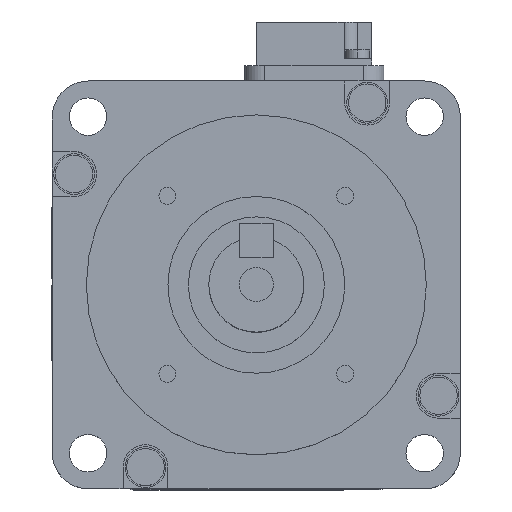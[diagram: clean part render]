
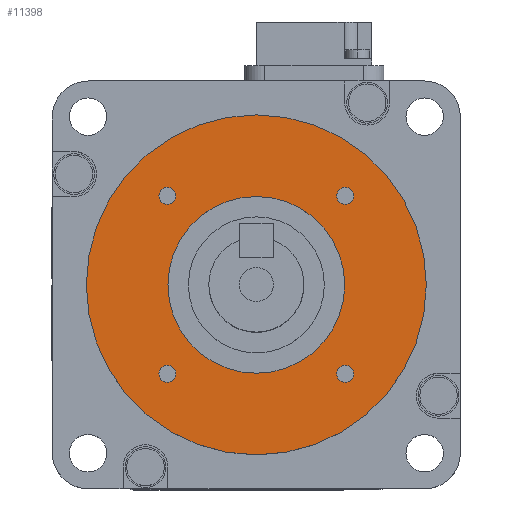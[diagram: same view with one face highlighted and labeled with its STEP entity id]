
A CAD part, top view. The second image highlights one B-rep face of the part: STEP entity #11398.
In plain terms, the highlighted planar face has unit normal (0, 0, 1).
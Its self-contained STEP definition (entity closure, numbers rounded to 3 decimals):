
#1415 = VERTEX_POINT ( 'NONE', #4808 ) ;
#1491 = VERTEX_POINT ( 'NONE', #4983 ) ;
#4808 = CARTESIAN_POINT ( 'NONE',  ( -25., 0., 3. ) ) ;
#4983 = CARTESIAN_POINT ( 'NONE',  ( 25., 0., 3. ) ) ;
#5596 = EDGE_LOOP ( 'NONE', ( #11982, #11968 ) ) ;
#7017 = CARTESIAN_POINT ( 'NONE',  ( 14.331, 13.081, 3. ) ) ;
#7051 = CARTESIAN_POINT ( 'NONE',  ( 11.831, 13.081, 3. ) ) ;
#7128 = DIRECTION ( 'NONE',  ( 0., 1., 0. ) ) ;
#7129 = DIRECTION ( 'NONE',  ( 0., 0., 1. ) ) ;
#7130 = CARTESIAN_POINT ( 'NONE',  ( -13.081, 13.081, 3. ) ) ;
#7131 = AXIS2_PLACEMENT_3D ( 'NONE', #7130, #7129, #7128 ) ;
#7132 = CIRCLE ( 'NONE', #7131, 1.25 ) ;
#7235 = FACE_BOUND ( 'NONE', #12932, .T. ) ;
#7236 = FACE_BOUND ( 'NONE', #11460, .T. ) ;
#7237 = FACE_BOUND ( 'NONE', #11914, .T. ) ;
#7238 = FACE_BOUND ( 'NONE', #11906, .T. ) ;
#7239 = FACE_BOUND ( 'NONE', #5596, .T. ) ;
#7263 = CARTESIAN_POINT ( 'NONE',  ( -11.831, 13.081, 3. ) ) ;
#7285 = DIRECTION ( 'NONE',  ( 1., 0., 0. ) ) ;
#7286 = DIRECTION ( 'NONE',  ( 0., 0., 1. ) ) ;
#7287 = CARTESIAN_POINT ( 'NONE',  ( 13.081, 13.081, 3. ) ) ;
#7288 = AXIS2_PLACEMENT_3D ( 'NONE', #7287, #7286, #7285 ) ;
#7289 = CIRCLE ( 'NONE', #7288, 1.25 ) ;
#7296 = DIRECTION ( 'NONE',  ( 1., 0., 0. ) ) ;
#7297 = DIRECTION ( 'NONE',  ( 0., 0., 1. ) ) ;
#7298 = CARTESIAN_POINT ( 'NONE',  ( 0., 25., 3. ) ) ;
#7299 = AXIS2_PLACEMENT_3D ( 'NONE', #7298, #7297, #7296 ) ;
#7300 = PLANE ( 'NONE',  #7299 ) ;
#7301 = FACE_OUTER_BOUND ( 'NONE', #12004, .T. ) ;
#7406 = CARTESIAN_POINT ( 'NONE',  ( 14.331, -13.081, 3. ) ) ;
#7424 = CARTESIAN_POINT ( 'NONE',  ( -14.331, -13.081, 3. ) ) ;
#7522 = DIRECTION ( 'NONE',  ( 0., -1., 0. ) ) ;
#7523 = DIRECTION ( 'NONE',  ( 0., 0., 1. ) ) ;
#7524 = CARTESIAN_POINT ( 'NONE',  ( 13.081, -13.081, 3. ) ) ;
#7525 = AXIS2_PLACEMENT_3D ( 'NONE', #7524, #7523, #7522 ) ;
#7526 = CIRCLE ( 'NONE', #7525, 1.25 ) ;
#7549 = DIRECTION ( 'NONE',  ( -1., 0., 0. ) ) ;
#7550 = DIRECTION ( 'NONE',  ( 0., 0., 1. ) ) ;
#7551 = CARTESIAN_POINT ( 'NONE',  ( -13.081, -13.081, 3. ) ) ;
#7552 = AXIS2_PLACEMENT_3D ( 'NONE', #7551, #7550, #7549 ) ;
#7553 = CIRCLE ( 'NONE', #7552, 1.25 ) ;
#7666 = CARTESIAN_POINT ( 'NONE',  ( -14.331, 13.081, 3. ) ) ;
#7716 = CARTESIAN_POINT ( 'NONE',  ( 11.831, -13.081, 3. ) ) ;
#7779 = CARTESIAN_POINT ( 'NONE',  ( -11.831, -13.081, 3. ) ) ;
#8157 = DIRECTION ( 'NONE',  ( 0., 1., 0. ) ) ;
#8158 = DIRECTION ( 'NONE',  ( 0., 0., 1. ) ) ;
#8159 = CARTESIAN_POINT ( 'NONE',  ( -13.081, 13.081, 3. ) ) ;
#8160 = AXIS2_PLACEMENT_3D ( 'NONE', #8159, #8158, #8157 ) ;
#8161 = CIRCLE ( 'NONE', #8160, 1.25 ) ;
#8233 = DIRECTION ( 'NONE',  ( -1., 0., 0. ) ) ;
#8234 = DIRECTION ( 'NONE',  ( 0., 0., 1. ) ) ;
#8235 = CARTESIAN_POINT ( 'NONE',  ( -13.081, -13.081, 3. ) ) ;
#8236 = AXIS2_PLACEMENT_3D ( 'NONE', #8235, #8234, #8233 ) ;
#8237 = CIRCLE ( 'NONE', #8236, 1.25 ) ;
#8273 = DIRECTION ( 'NONE',  ( 0., -1., 0. ) ) ;
#8274 = DIRECTION ( 'NONE',  ( 0., 0., 1. ) ) ;
#8275 = CARTESIAN_POINT ( 'NONE',  ( 13.081, -13.081, 3. ) ) ;
#8276 = AXIS2_PLACEMENT_3D ( 'NONE', #8275, #8274, #8273 ) ;
#8277 = CIRCLE ( 'NONE', #8276, 1.25 ) ;
#8368 = DIRECTION ( 'NONE',  ( -1., 0., 0. ) ) ;
#8369 = DIRECTION ( 'NONE',  ( 0., 0., -1. ) ) ;
#8370 = CARTESIAN_POINT ( 'NONE',  ( 0., 0., 3. ) ) ;
#8371 = AXIS2_PLACEMENT_3D ( 'NONE', #8370, #8369, #8368 ) ;
#8372 = CIRCLE ( 'NONE', #8371, 25. ) ;
#8810 = CARTESIAN_POINT ( 'NONE',  ( -13., 0., 3. ) ) ;
#8811 = DIRECTION ( 'NONE',  ( -1., 0., 0. ) ) ;
#8812 = DIRECTION ( 'NONE',  ( 0., 0., -1. ) ) ;
#8813 = CARTESIAN_POINT ( 'NONE',  ( 0., 0., 3. ) ) ;
#8814 = AXIS2_PLACEMENT_3D ( 'NONE', #8813, #8812, #8811 ) ;
#8815 = CIRCLE ( 'NONE', #8814, 13. ) ;
#9234 = CARTESIAN_POINT ( 'NONE',  ( 13., 0., 3. ) ) ;
#9311 = DIRECTION ( 'NONE',  ( -1., 0., 0. ) ) ;
#9312 = DIRECTION ( 'NONE',  ( 0., 0., -1. ) ) ;
#9313 = CARTESIAN_POINT ( 'NONE',  ( 0., 0., 3. ) ) ;
#9314 = AXIS2_PLACEMENT_3D ( 'NONE', #9313, #9312, #9311 ) ;
#9315 = CIRCLE ( 'NONE', #9314, 25. ) ;
#9566 = VERTEX_POINT ( 'NONE', #7017 ) ;
#9800 = DIRECTION ( 'NONE',  ( -1., 0., 0. ) ) ;
#9801 = DIRECTION ( 'NONE',  ( 0., 0., -1. ) ) ;
#9802 = CARTESIAN_POINT ( 'NONE',  ( 0., 0., 3. ) ) ;
#9803 = AXIS2_PLACEMENT_3D ( 'NONE', #9802, #9801, #9800 ) ;
#9804 = CIRCLE ( 'NONE', #9803, 13. ) ;
#9965 = DIRECTION ( 'NONE',  ( 1., 0., 0. ) ) ;
#9966 = DIRECTION ( 'NONE',  ( 0., 0., 1. ) ) ;
#9967 = CARTESIAN_POINT ( 'NONE',  ( 13.081, 13.081, 3. ) ) ;
#9968 = AXIS2_PLACEMENT_3D ( 'NONE', #9967, #9966, #9965 ) ;
#9969 = CIRCLE ( 'NONE', #9968, 1.25 ) ;
#10066 = VERTEX_POINT ( 'NONE', #7051 ) ;
#10557 = EDGE_CURVE ( 'NONE', #11640, #11384, #7132, .T. ) ;
#11384 = VERTEX_POINT ( 'NONE', #7263 ) ;
#11398 = ADVANCED_FACE ( 'NONE', ( #7239, #7238, #7237, #7236, #7235, #7301 ), #7300, .T. ) ;
#11401 = EDGE_CURVE ( 'NONE', #10066, #9566, #7289, .T. ) ;
#11460 = EDGE_LOOP ( 'NONE', ( #13031, #12985 ) ) ;
#11478 = VERTEX_POINT ( 'NONE', #7424 ) ;
#11495 = VERTEX_POINT ( 'NONE', #7406 ) ;
#11537 = EDGE_CURVE ( 'NONE', #11652, #11495, #7526, .T. ) ;
#11558 = EDGE_CURVE ( 'NONE', #11478, #11702, #7553, .T. ) ;
#11640 = VERTEX_POINT ( 'NONE', #7666 ) ;
#11652 = VERTEX_POINT ( 'NONE', #7716 ) ;
#11702 = VERTEX_POINT ( 'NONE', #7779 ) ;
#11906 = EDGE_LOOP ( 'NONE', ( #11907, #11909 ) ) ;
#11907 = ORIENTED_EDGE ( 'NONE', *, *, #11953, .F. ) ;
#11909 = ORIENTED_EDGE ( 'NONE', *, *, #11558, .F. ) ;
#11914 = EDGE_LOOP ( 'NONE', ( #11921, #12084 ) ) ;
#11921 = ORIENTED_EDGE ( 'NONE', *, *, #11927, .F. ) ;
#11927 = EDGE_CURVE ( 'NONE', #11384, #11640, #8161, .T. ) ;
#11953 = EDGE_CURVE ( 'NONE', #11702, #11478, #8237, .T. ) ;
#11968 = ORIENTED_EDGE ( 'NONE', *, *, #11537, .F. ) ;
#11969 = EDGE_CURVE ( 'NONE', #11495, #11652, #8277, .T. ) ;
#11982 = ORIENTED_EDGE ( 'NONE', *, *, #11969, .F. ) ;
#12004 = EDGE_LOOP ( 'NONE', ( #12036, #12035 ) ) ;
#12035 = ORIENTED_EDGE ( 'NONE', *, *, #12038, .F. ) ;
#12036 = ORIENTED_EDGE ( 'NONE', *, *, #12638, .F. ) ;
#12038 = EDGE_CURVE ( 'NONE', #1491, #1415, #8372, .T. ) ;
#12050 = ORIENTED_EDGE ( 'NONE', *, *, #12335, .T. ) ;
#12084 = ORIENTED_EDGE ( 'NONE', *, *, #10557, .F. ) ;
#12335 = EDGE_CURVE ( 'NONE', #12597, #12337, #8815, .T. ) ;
#12337 = VERTEX_POINT ( 'NONE', #8810 ) ;
#12597 = VERTEX_POINT ( 'NONE', #9234 ) ;
#12638 = EDGE_CURVE ( 'NONE', #1415, #1491, #9315, .T. ) ;
#12923 = ORIENTED_EDGE ( 'NONE', *, *, #12928, .T. ) ;
#12928 = EDGE_CURVE ( 'NONE', #12337, #12597, #9804, .T. ) ;
#12932 = EDGE_LOOP ( 'NONE', ( #12923, #12050 ) ) ;
#12985 = ORIENTED_EDGE ( 'NONE', *, *, #11401, .F. ) ;
#13026 = EDGE_CURVE ( 'NONE', #9566, #10066, #9969, .T. ) ;
#13031 = ORIENTED_EDGE ( 'NONE', *, *, #13026, .F. ) ;
